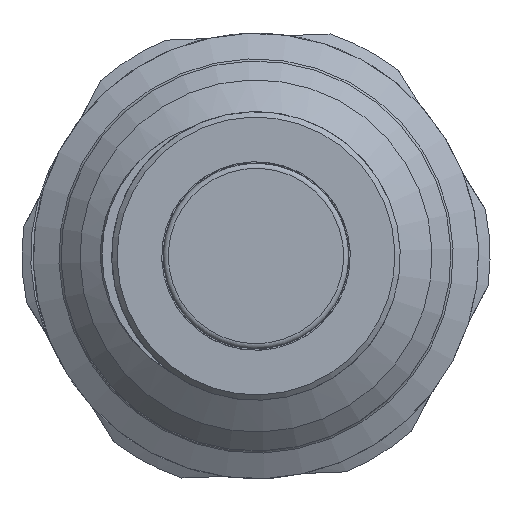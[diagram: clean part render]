
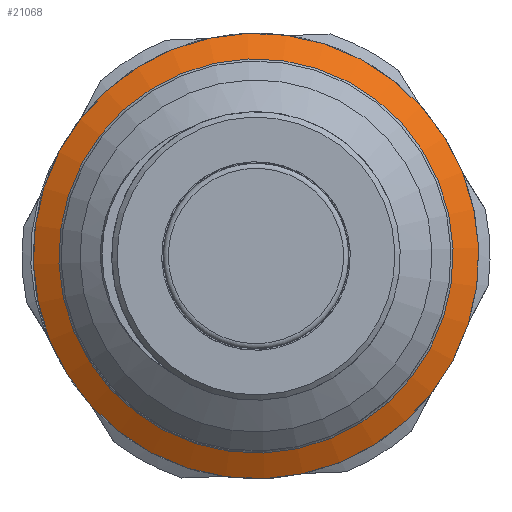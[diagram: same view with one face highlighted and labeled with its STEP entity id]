
A CAD part, front view. The second image highlights one B-rep face of the part: STEP entity #21068.
In plain terms, the highlighted conical face has half-angle 60 degrees and reference radius 19.55 mm.
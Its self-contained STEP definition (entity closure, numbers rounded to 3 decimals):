
#2797=LINE('',#35802,#3998);
#3998=VECTOR('',#23567,19.55);
#5168=FACE_OUTER_BOUND('',#6309,.T.);
#6309=EDGE_LOOP('',(#16835,#16836,#16837,#16838,#16839));
#7117=CIRCLE('',#22011,20.85);
#7118=CIRCLE('',#22012,18.45);
#7119=CIRCLE('',#22013,18.45);
#9817=VERTEX_POINT('',#35799);
#9818=VERTEX_POINT('',#35801);
#9819=VERTEX_POINT('',#35803);
#12370=EDGE_CURVE('',#9817,#9817,#7117,.T.);
#12371=EDGE_CURVE('',#9817,#9818,#2797,.T.);
#12372=EDGE_CURVE('',#9819,#9818,#7118,.T.);
#12373=EDGE_CURVE('',#9818,#9819,#7119,.T.);
#16835=ORIENTED_EDGE('',*,*,#12370,.F.);
#16836=ORIENTED_EDGE('',*,*,#12371,.T.);
#16837=ORIENTED_EDGE('',*,*,#12372,.F.);
#16838=ORIENTED_EDGE('',*,*,#12373,.F.);
#16839=ORIENTED_EDGE('',*,*,#12371,.F.);
#20584=CONICAL_SURFACE('',#22010,19.55,1.047);
#21068=ADVANCED_FACE('',(#5168),#20584,.T.);
#22010=AXIS2_PLACEMENT_3D('',#35798,#23563,#23564);
#22011=AXIS2_PLACEMENT_3D('',#35800,#23565,#23566);
#22012=AXIS2_PLACEMENT_3D('',#35804,#23568,#23569);
#22013=AXIS2_PLACEMENT_3D('',#35805,#23570,#23571);
#23563=DIRECTION('center_axis',(0.,1.,0.));
#23564=DIRECTION('ref_axis',(-0.999,0.,-0.038));
#23565=DIRECTION('center_axis',(0.,1.,0.));
#23566=DIRECTION('ref_axis',(0.999,0.,0.038));
#23567=DIRECTION('',(-0.865,-0.5,-0.033));
#23568=DIRECTION('center_axis',(0.,-1.,0.));
#23569=DIRECTION('ref_axis',(0.999,0.,0.038));
#23570=DIRECTION('center_axis',(0.,-1.,0.));
#23571=DIRECTION('ref_axis',(0.999,0.,0.038));
#35798=CARTESIAN_POINT('Origin',(1.763,-30.239,0.732));
#35799=CARTESIAN_POINT('',(22.598,-29.488,1.517));
#35800=CARTESIAN_POINT('Origin',(1.763,-29.488,0.732));
#35801=CARTESIAN_POINT('',(20.2,-30.874,1.427));
#35802=CARTESIAN_POINT('',(21.299,-30.239,1.468));
#35803=CARTESIAN_POINT('',(2.458,-30.874,-17.705));
#35804=CARTESIAN_POINT('Origin',(1.763,-30.874,0.732));
#35805=CARTESIAN_POINT('Origin',(1.763,-30.874,0.732));
